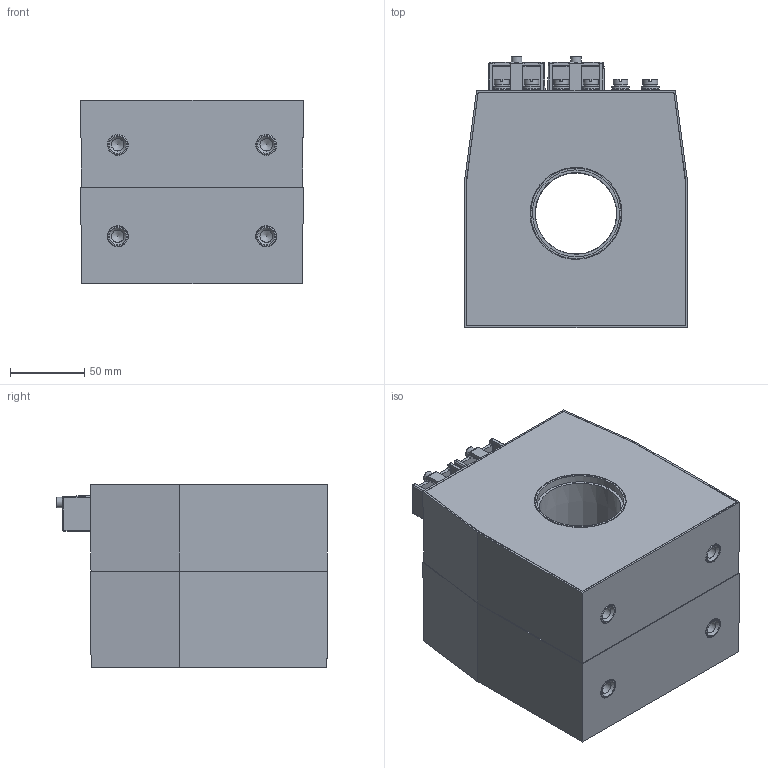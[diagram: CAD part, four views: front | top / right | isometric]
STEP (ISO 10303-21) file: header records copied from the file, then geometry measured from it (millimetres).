
FILE_DESCRIPTION(('STEP AP203'), '1');
FILE_NAME('ÒØÏ-ÍÒÇ-0,66-72À (55 ìì, 2-é ãàáàðèò)', '2025-08-27T09:38:11', ('UNSPECIFIED'), ('UNSPECIFIED'), 'ASCON STEP Converter 1.3', 'ASCON Math Kernel', '');
FILE_SCHEMA(('CONFIG_CONTROL_DESIGN'));
Length unit declared in the file: millimetre
Assembly tree (39 placements, depth 2):
  (unnamed)
    (unnamed)
    (unnamed)
    (unnamed)  x2
    (unnamed)  x4
    (unnamed)  x2
    (unnamed)  x6
    (unnamed)  x2
    (unnamed)  x6
    (unnamed)  x6
    (unnamed)  x6
    (unnamed)  x2
    (unnamed)
Bounding box: 150 x 182.93 x 123.5 mm (x, y, z)
Volume: 504574.9 mm3; surface area: 322972.7 mm2
Topology: 39 solids, 39 shells, 594 faces, 1300 edges, 805 vertices
Faces by surface type: plane 302, cylinder 178, cone 78, torus 20, bspline 16
Full cylindrical faces by diameter (mm): 3.244 x2, 3.95 x2, 4 x6, 4.5 x2, 4.8 x6, 4.92 x6, 6 x10, 6.4 x6, 7 x2, 7.1 x4, 8 x2, 8.376 x4, 10 x12, 10.1 x6, 12 x12, 14 x8, 17 x4, 55 x1, 55.05 x1, 58.599 x4, 58.6 x1, 61 x1, 65.05 x1, 68.6 x1
Entity records: 12417 total; most frequent: CARTESIAN_POINT 2580, DIRECTION 1362, ORIENTED_EDGE 1166, EDGE_CURVE 583, AXIS2_PLACEMENT_3D 512, VERTEX_POINT 412, EDGE_LOOP 409, LINE 338
